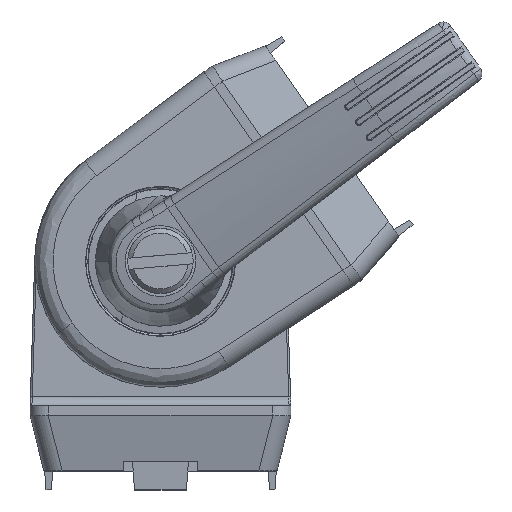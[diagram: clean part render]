
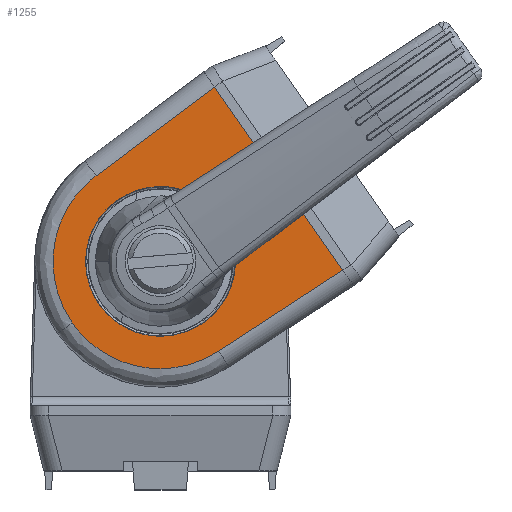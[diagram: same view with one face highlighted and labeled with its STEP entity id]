
A CAD part, top view. The second image highlights one B-rep face of the part: STEP entity #1255.
In plain terms, the highlighted planar face has unit normal (-0.014, -0.01, 1).
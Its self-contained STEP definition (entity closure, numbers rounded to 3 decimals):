
#1255=ADVANCED_FACE('NONE',(#2996,#2997),#2998,.F.);
#2996=FACE_OUTER_BOUND('',#6154,.T.);
#2997=FACE_BOUND('',#6155,.T.);
#2998=PLANE('',#6156);
#6154=EDGE_LOOP('',(#11768,#11769,#11770,#11771,#11772));
#6155=EDGE_LOOP('',(#11773,#11774));
#6156=AXIS2_PLACEMENT_3D('',#11775,#11776,#11777);
#11768=ORIENTED_EDGE('',*,*,#16995,.F.);
#11769=ORIENTED_EDGE('',*,*,#17265,.F.);
#11770=ORIENTED_EDGE('',*,*,#17213,.F.);
#11771=ORIENTED_EDGE('',*,*,#16863,.F.);
#11772=ORIENTED_EDGE('',*,*,#17266,.F.);
#11773=ORIENTED_EDGE('',*,*,#17267,.F.);
#11774=ORIENTED_EDGE('',*,*,#17268,.F.);
#11775=CARTESIAN_POINT('',(4.093,21.178,14.0));
#11776=DIRECTION('',(0.014,0.01,-1.));
#11777=DIRECTION('',(0.,-1.,-0.01));
#16863=EDGE_CURVE('NONE',#19889,#19891,#19892,.T.);
#16995=EDGE_CURVE('NONE',#20107,#20109,#20110,.T.);
#17213=EDGE_CURVE('NONE',#19891,#20449,#20450,.T.);
#17265=EDGE_CURVE('NONE',#20449,#20107,#20533,.T.);
#17266=EDGE_CURVE('NONE',#20109,#19889,#20534,.T.);
#17267=EDGE_CURVE('NONE',#20535,#20536,#20537,.T.);
#17268=EDGE_CURVE('NONE',#20536,#20535,#20538,.T.);
#19889=VERTEX_POINT('NONE',#25960);
#19891=VERTEX_POINT('NONE',#25962);
#19892=B_SPLINE_CURVE_WITH_KNOTS('',3,(#25963,#25964,#25965,#25966,#25967,#25968,#25969,#25970,#25971,#25972),.UNSPECIFIED.,.F.,.F.,(4,2,2,2,4),(0.0,0.25,0.5,0.75,1.0),.UNSPECIFIED.);
#20107=VERTEX_POINT('NONE',#26488);
#20109=VERTEX_POINT('NONE',#26503);
#20110=B_SPLINE_CURVE_WITH_KNOTS('',3,(#26504,#26505,#26506,#26507),.UNSPECIFIED.,.F.,.F.,(4,4),(0.0,1.0),.UNSPECIFIED.);
#20449=VERTEX_POINT('NONE',#27236);
#20450=B_SPLINE_CURVE_WITH_KNOTS('',3,(#27237,#27238,#27239,#27240),.UNSPECIFIED.,.F.,.F.,(4,4),(0.0,1.0),.UNSPECIFIED.);
#20533=LINE('',#27521,#27522);
#20534=B_SPLINE_CURVE_WITH_KNOTS('',3,(#27523,#27524,#27525,#27526,#27527,#27528,#27529,#27530,#27531,#27532),.UNSPECIFIED.,.F.,.F.,(4,2,2,2,4),(0.0,0.25,0.5,0.75,1.0),.UNSPECIFIED.);
#20535=VERTEX_POINT('NONE',#27533);
#20536=VERTEX_POINT('NONE',#27534);
#20537=(B_SPLINE_CURVE(3,(#27536,#27537,#27538,#27539,#27540,#27541,#27542),.UNSPECIFIED.,.F.,.F.)B_SPLINE_CURVE_WITH_KNOTS((4,3,4),(4.101,5.672,7.244),.UNSPECIFIED.)RATIONAL_B_SPLINE_CURVE((1.0,0.805,0.805,1.0,0.805,0.805,1.0))BOUNDED_CURVE()REPRESENTATION_ITEM('')GEOMETRIC_REPRESENTATION_ITEM()CURVE());
#20538=(B_SPLINE_CURVE(3,(#27550,#27551,#27552,#27553),.UNSPECIFIED.,.F.,.F.)B_SPLINE_CURVE_WITH_KNOTS((4,4),(0.96,4.101),.UNSPECIFIED.)RATIONAL_B_SPLINE_CURVE((1.0,0.334,0.334,1.0))BOUNDED_CURVE()REPRESENTATION_ITEM('')GEOMETRIC_REPRESENTATION_ITEM()CURVE());
#25960=CARTESIAN_POINT('',(-9.449,-6.616,13.528));
#25962=CARTESIAN_POINT('',(-6.921,9.186,13.722));
#25963=CARTESIAN_POINT('',(-9.449,-6.616,13.528));
#25964=CARTESIAN_POINT('',(-10.295,-5.408,13.528));
#25965=CARTESIAN_POINT('',(-10.905,-4.036,13.533));
#25966=CARTESIAN_POINT('',(-11.567,-1.161,13.552));
#25967=CARTESIAN_POINT('',(-11.617,0.34,13.567));
#25968=CARTESIAN_POINT('',(-11.151,3.253,13.603));
#25969=CARTESIAN_POINT('',(-10.635,4.663,13.624));
#25970=CARTESIAN_POINT('',(-9.11,7.188,13.671));
#25971=CARTESIAN_POINT('',(-8.102,8.302,13.697));
#25972=CARTESIAN_POINT('',(-6.921,9.186,13.722));
#26488=CARTESIAN_POINT('',(19.58,-0.939,14.));
#26503=CARTESIAN_POINT('',(6.265,-9.645,13.722));
#26504=CARTESIAN_POINT('',(19.58,-0.939,14.));
#26505=CARTESIAN_POINT('',(15.141,-3.841,13.907));
#26506=CARTESIAN_POINT('',(10.703,-6.743,13.815));
#26507=CARTESIAN_POINT('',(6.265,-9.645,13.722));
#27236=CARTESIAN_POINT('',(5.814,18.72,14.));
#27237=CARTESIAN_POINT('',(-6.921,9.186,13.722));
#27238=CARTESIAN_POINT('',(-2.676,12.364,13.815));
#27239=CARTESIAN_POINT('',(1.569,15.542,13.907));
#27240=CARTESIAN_POINT('',(5.814,18.72,14.));
#27521=CARTESIAN_POINT('',(5.814,18.72,14.));
#27522=VECTOR('',#33339,1000.0);
#27523=CARTESIAN_POINT('',(6.265,-9.645,13.722));
#27524=CARTESIAN_POINT('',(5.03,-10.453,13.697));
#27525=CARTESIAN_POINT('',(3.639,-11.019,13.671));
#27526=CARTESIAN_POINT('',(0.745,-11.588,13.624));
#27527=CARTESIAN_POINT('',(-0.757,-11.591,13.603));
#27528=CARTESIAN_POINT('',(-3.654,-11.033,13.567));
#27529=CARTESIAN_POINT('',(-5.047,-10.472,13.552));
#27530=CARTESIAN_POINT('',(-7.522,-8.867,13.533));
#27531=CARTESIAN_POINT('',(-8.603,-7.824,13.528));
#27532=CARTESIAN_POINT('',(-9.449,-6.616,13.528));
#27533=CARTESIAN_POINT('',(0.,-8.04,13.649));
#27534=CARTESIAN_POINT('',(0.,8.046,13.81));
#27536=CARTESIAN_POINT('',(0.,-8.04,13.649));
#27537=CARTESIAN_POINT('',(4.713,-8.042,13.716));
#27538=CARTESIAN_POINT('',(8.047,-4.71,13.797));
#27539=CARTESIAN_POINT('',(8.047,0.003,13.845));
#27540=CARTESIAN_POINT('',(8.047,4.716,13.892));
#27541=CARTESIAN_POINT('',(4.713,8.048,13.877));
#27542=CARTESIAN_POINT('',(0.,8.046,13.81));
#27550=CARTESIAN_POINT('',(0.,8.046,13.81));
#27551=CARTESIAN_POINT('',(-16.07,8.038,13.58));
#27552=CARTESIAN_POINT('',(-16.07,-8.032,13.419));
#27553=CARTESIAN_POINT('',(0.,-8.04,13.649));
#33339=DIRECTION('',(0.574,-0.819,0.));
